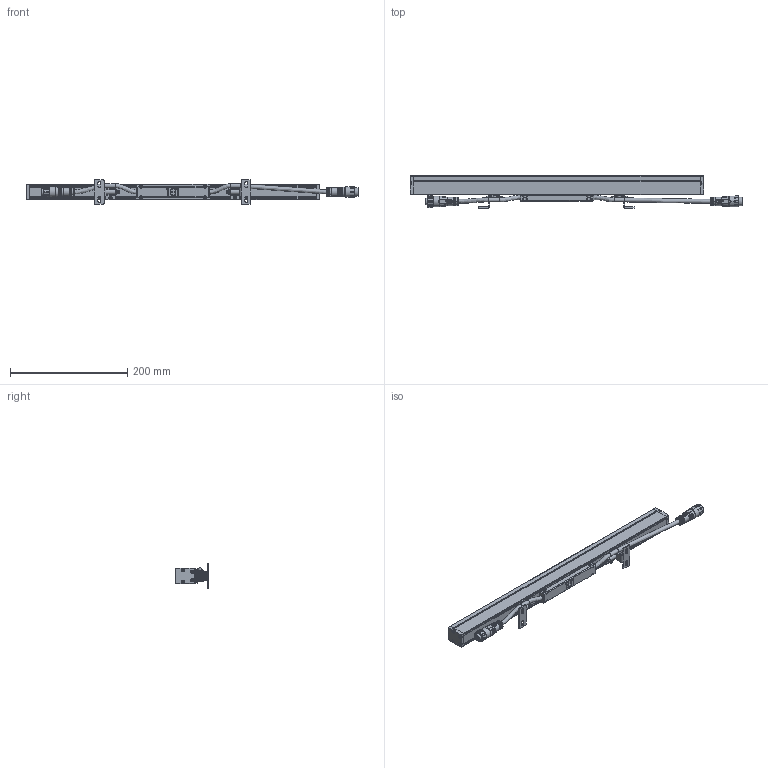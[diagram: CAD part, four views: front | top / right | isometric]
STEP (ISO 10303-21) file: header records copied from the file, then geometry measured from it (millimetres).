
FILE_DESCRIPTION (( 'STEP AP214' ), '1' );
FILE_NAME ('Linear Soft Line - L500.STEP', '2025-08-26T12:09:02', ( '' ), ( '' ), 'SwSTEP 2.0', 'SolidWorks 2025', '' );
FILE_SCHEMA (( 'AUTOMOTIVE_DESIGN' ));
Length unit declared in the file: millimetre
Products named in the file (7): Cable^Linear Soft Line_L500; Linear Soft Line - Bracket bottom; M16 5p Male; Linear Soft Line - Body_L500; Linear Soft Line - Bracket topside; M16 5p Female; Linear Soft Line - L500
Assembly tree (8 placements, depth 2):
  Linear Soft Line - L500
    Linear Soft Line - Body_L500
    Linear Soft Line - Bracket topside  x2
    Linear Soft Line - Bracket bottom  x2
    M16 5p Male
    M16 5p Female
    Cable^Linear Soft Line_L500
Bounding box: 565.3 x 55.1 x 42 mm (x, y, z)
Volume: 466501.4 mm3; surface area: 109030.6 mm2
Topology: 18 solids, 31 shells, 1927 faces, 4412 edges, 2593 vertices
Faces by surface type: plane 773, cylinder 539, cone 262, torus 165, bspline 158, sphere 30
Full cylindrical faces by diameter (mm): 2.6 x4, 7 x2, 9.2 x1, 11.1 x1, 14.25 x1, 14.3 x1, 18 x1
Entity records: 70710 total; most frequent: CARTESIAN_POINT 24543, ORIENTED_EDGE 7902, DIRECTION 7659, EDGE_CURVE 3951, AXIS2_PLACEMENT_3D 3064, VERTEX_POINT 2353, EDGE_LOOP 1918, FACE_OUTER_BOUND 1777
